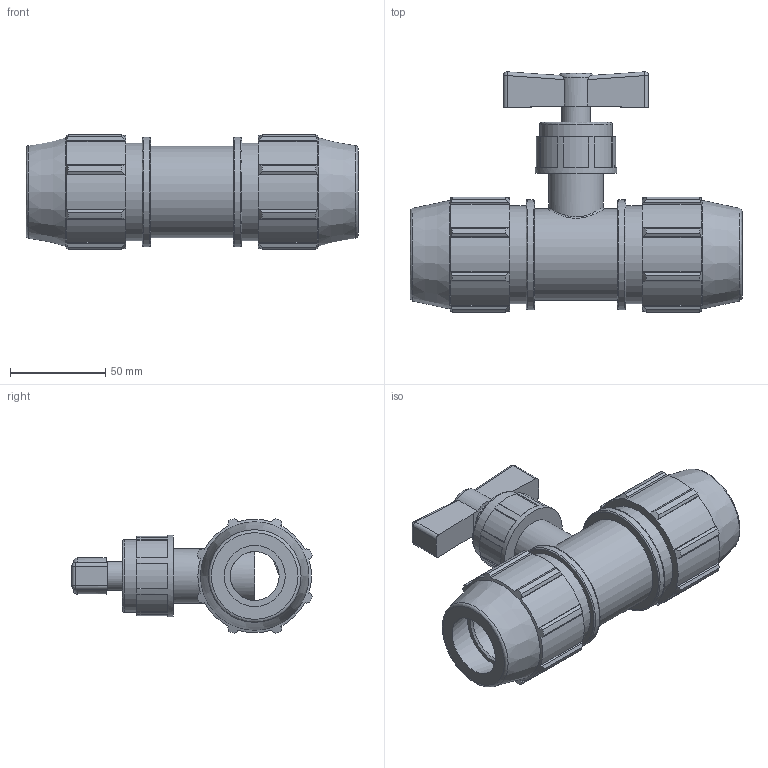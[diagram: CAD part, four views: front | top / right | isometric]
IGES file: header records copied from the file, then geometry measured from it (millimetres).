
Global section: file name: 03407032.ipt; native system: Autodesk Inventor 2015; preprocessor: unknown; author: KIM; date: 20170618.093051; units: millimetre
Bounding box: 174 x 125.96 x 60.22 mm (x, y, z)
Volume: 354367.3 mm3; surface area: 67965.2 mm2
Topology: 1 solids, 1 shells, 235 faces, 657 edges, 439 vertices
Faces by surface type: plane 132, cylinder 63, cone 20, revolution 15, sphere 4, bspline 1
Full cylindrical faces by diameter (mm): 15.2 x1, 28.5 x1, 38 x1, 42.75 x1, 48 x1, 51.2 x2, 57.6 x2
